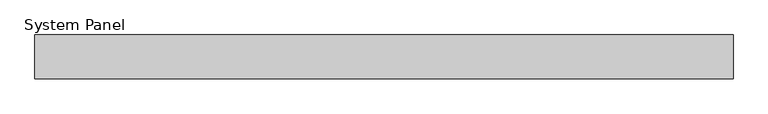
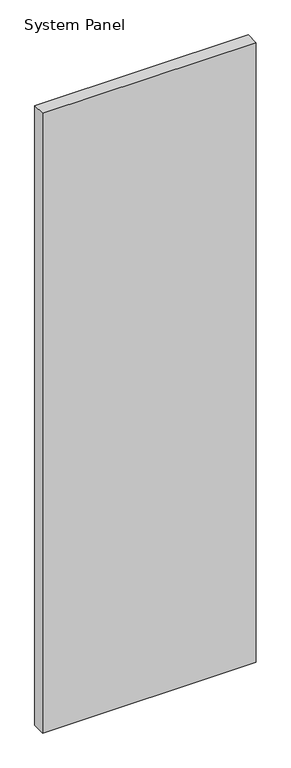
"""IFC4 building model written with IfcOpenShell, lengths in millimetres: plate geometry, System Panel : Equitilt 75mm Vertical - Plain RHEA - MW."""

from ifc_helpers import new_model, si_unit, origin, origin_with_axes, place, context, project, spatial, polyline, outline, extrude, source, transform, mapped, element, save


def system_panel_b8428c64(model_context):
    return source(origin(), model_context, "Body", "SweptSolid", [
        extrude(outline(polyline([(600.0, -75.0), (-600.0, -75.0), (-600.0, 0.0), (600.0, 0.0), (600.0, -75.0)])), origin_with_axes(), (0.0, 0.0, 1.0), 3679.9704237),
    ])


if __name__ == "__main__":
    model = new_model("IFC4")
    model_context = context("Model", 3, world=origin())
    ifc_project = project(units=[si_unit("LENGTHUNIT", "METRE", prefix="MILLI")], contexts=[model_context])
    site = spatial("IfcSite", under=ifc_project)
    building = spatial("IfcBuilding", under=site)
    placement = place(None, origin())
    system_panel_shape = system_panel_b8428c64(model_context)
    element("IfcPlate", 1, ObjectType="System Panel : Equitilt 75mm Vertical - Plain RHEA - MW", at=placement, inside=building, context=model_context, shape_type="MappedRepresentation", body=[
        mapped(system_panel_shape, transform((0.0, 0.0, 0.0), x_axis=(1.0, 0.0, 0.0), y_axis=(0.0, 1.0, 0.0), z_axis=(0.0, 0.0, 1.0))),
    ])
    save(model, "model.ifc")
